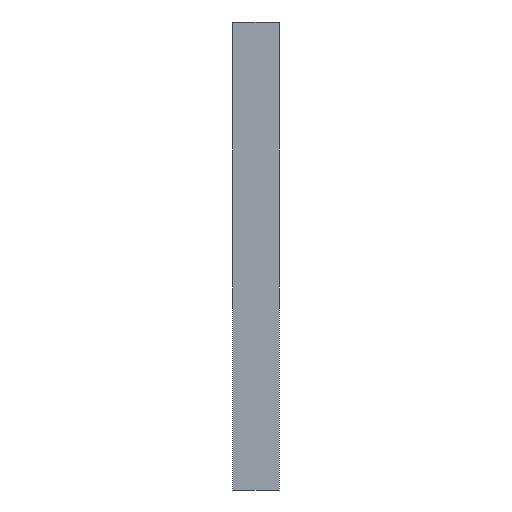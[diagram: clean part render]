
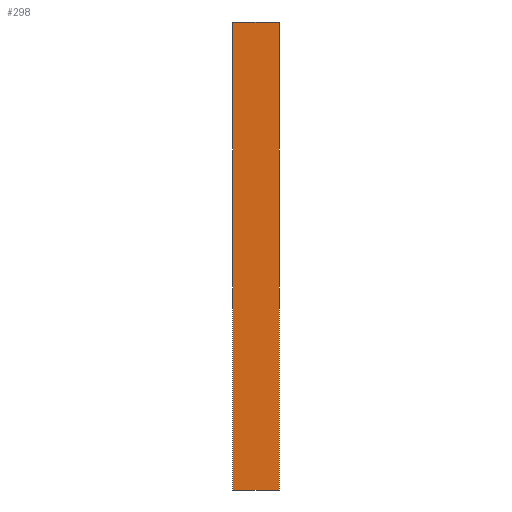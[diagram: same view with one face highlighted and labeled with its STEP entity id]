
A CAD part, front view. The second image highlights one B-rep face of the part: STEP entity #298.
In plain terms, the highlighted planar face has unit normal (0, -1, 0).
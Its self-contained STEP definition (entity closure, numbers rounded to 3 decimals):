
#59 = VERTEX_POINT ( 'NONE', #362 ) ;
#66 = LINE ( 'NONE', #407, #740 ) ;
#90 = FACE_OUTER_BOUND ( 'NONE', #116, .T. ) ;
#98 = VERTEX_POINT ( 'NONE', #524 ) ;
#107 = EDGE_CURVE ( 'NONE', #178, #98, #66, .T. ) ;
#109 = DIRECTION ( 'NONE',  ( 1., 0., 0. ) ) ;
#111 = EDGE_CURVE ( 'NONE', #672, #59, #284, .T. ) ;
#116 = EDGE_LOOP ( 'NONE', ( #385, #565, #197, #687 ) ) ;
#154 = EDGE_CURVE ( 'NONE', #59, #178, #621, .T. ) ;
#178 = VERTEX_POINT ( 'NONE', #488 ) ;
#180 = VECTOR ( 'NONE', #303, 1000. ) ;
#197 = ORIENTED_EDGE ( 'NONE', *, *, #667, .T. ) ;
#265 = AXIS2_PLACEMENT_3D ( 'NONE', #634, #449, #575 ) ;
#284 = LINE ( 'NONE', #292, #357 ) ;
#292 = CARTESIAN_POINT ( 'NONE',  ( -115.12, -276., -419. ) ) ;
#298 = ADVANCED_FACE ( 'NONE', ( #90 ), #336, .T. ) ;
#303 = DIRECTION ( 'NONE',  ( 0., 0., -1. ) ) ;
#307 = CARTESIAN_POINT ( 'NONE',  ( -120.12, -276., -419. ) ) ;
#336 = PLANE ( 'NONE',  #265 ) ;
#357 = VECTOR ( 'NONE', #534, 1000. ) ;
#362 = CARTESIAN_POINT ( 'NONE',  ( -120.12, -276., -419. ) ) ;
#385 = ORIENTED_EDGE ( 'NONE', *, *, #154, .T. ) ;
#407 = CARTESIAN_POINT ( 'NONE',  ( -125.12, -276., -469. ) ) ;
#443 = LINE ( 'NONE', #506, #490 ) ;
#449 = DIRECTION ( 'NONE',  ( 0., -1., 0. ) ) ;
#488 = CARTESIAN_POINT ( 'NONE',  ( -120.12, -276., -469. ) ) ;
#490 = VECTOR ( 'NONE', #684, 1000. ) ;
#506 = CARTESIAN_POINT ( 'NONE',  ( -115.12, -276., -469. ) ) ;
#524 = CARTESIAN_POINT ( 'NONE',  ( -115.12, -276., -469. ) ) ;
#534 = DIRECTION ( 'NONE',  ( -1., 0., 0. ) ) ;
#565 = ORIENTED_EDGE ( 'NONE', *, *, #107, .T. ) ;
#566 = CARTESIAN_POINT ( 'NONE',  ( -115.12, -276., -419. ) ) ;
#575 = DIRECTION ( 'NONE',  ( -1., 0., 0. ) ) ;
#621 = LINE ( 'NONE', #307, #180 ) ;
#634 = CARTESIAN_POINT ( 'NONE',  ( -125.12, -276., -444. ) ) ;
#667 = EDGE_CURVE ( 'NONE', #98, #672, #443, .T. ) ;
#672 = VERTEX_POINT ( 'NONE', #566 ) ;
#684 = DIRECTION ( 'NONE',  ( 0., 0., 1. ) ) ;
#687 = ORIENTED_EDGE ( 'NONE', *, *, #111, .T. ) ;
#740 = VECTOR ( 'NONE', #109, 1000. ) ;
